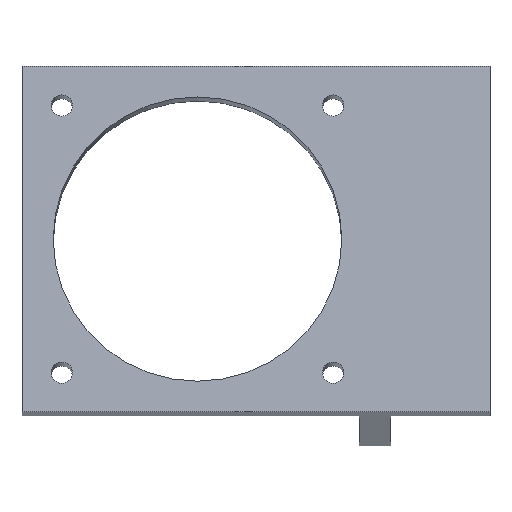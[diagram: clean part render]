
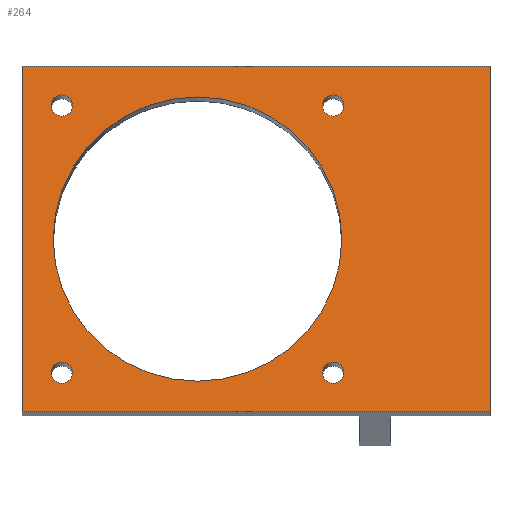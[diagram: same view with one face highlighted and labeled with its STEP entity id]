
A CAD part, front view. The second image highlights one B-rep face of the part: STEP entity #264.
In plain terms, the highlighted planar face has unit normal (0, -0.985, 0.174).
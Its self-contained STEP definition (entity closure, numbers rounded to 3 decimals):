
#37=CARTESIAN_POINT('',(-173.5,-846.999,521.293));
#38=VERTEX_POINT('',#37);
#45=CARTESIAN_POINT('',(-173.5,-862.627,432.66));
#46=VERTEX_POINT('',#45);
#47=CARTESIAN_POINT('',(-173.5,-862.627,432.66));
#48=DIRECTION('',(0.,0.174,0.985));
#49=VECTOR('',#48,1.);
#50=LINE('',#47,#49);
#51=EDGE_CURVE('',#46,#38,#50,.T.);
#77=CARTESIAN_POINT('',(-293.5,-862.627,432.66));
#78=VERTEX_POINT('',#77);
#85=CARTESIAN_POINT('',(-293.5,-846.999,521.293));
#86=VERTEX_POINT('',#85);
#87=CARTESIAN_POINT('',(-293.5,-846.999,521.293));
#88=DIRECTION('',(0.,-0.174,-0.985));
#89=VECTOR('',#88,1.);
#90=LINE('',#87,#89);
#91=EDGE_CURVE('',#86,#78,#90,.T.);
#188=CARTESIAN_POINT('',(-293.5,-862.627,432.66));
#189=DIRECTION('',(0.0,-0.985,0.174));
#190=DIRECTION('',(1.0,0.0,0.0));
#191=AXIS2_PLACEMENT_3D('',#188,#189,#190);
#192=PLANE('',#191);
#193=CARTESIAN_POINT('',(-293.5,-862.627,432.66));
#194=DIRECTION('',(1.0,0.0,0.0));
#195=VECTOR('',#194,1.);
#196=LINE('',#193,#195);
#197=EDGE_CURVE('',#78,#46,#196,.T.);
#198=ORIENTED_EDGE('',*,*,#197,.T.);
#199=ORIENTED_EDGE('',*,*,#51,.T.);
#200=CARTESIAN_POINT('',(-173.5,-846.999,521.293));
#201=DIRECTION('',(-1.0,0.,0.));
#202=VECTOR('',#201,1.);
#203=LINE('',#200,#202);
#204=EDGE_CURVE('',#38,#86,#203,.T.);
#205=ORIENTED_EDGE('',*,*,#204,.T.);
#206=ORIENTED_EDGE('',*,*,#91,.T.);
#207=EDGE_LOOP('',(#198,#199,#205,#206));
#208=FACE_OUTER_BOUND('',#207,.T.);
#209=CARTESIAN_POINT('',(-211.5,-854.813,476.977));
#210=VERTEX_POINT('',#209);
#211=CARTESIAN_POINT('',(-248.5,-854.813,476.977));
#212=DIRECTION('',(0.0,-0.985,0.174));
#213=DIRECTION('',(1.0,0.0,0.0));
#214=AXIS2_PLACEMENT_3D('',#211,#212,#213);
#215=CIRCLE('',#214,37.0);
#216=EDGE_CURVE('',#210,#210,#215,.T.);
#217=ORIENTED_EDGE('',*,*,#216,.F.);
#218=EDGE_LOOP('',(#217));
#219=FACE_BOUND('',#218,.T.);
#220=CARTESIAN_POINT('',(-280.54,-860.854,442.715));
#221=VERTEX_POINT('',#220);
#222=CARTESIAN_POINT('',(-283.29,-860.854,442.715));
#223=DIRECTION('',(0.0,-0.985,0.174));
#224=DIRECTION('',(1.0,0.0,0.0));
#225=AXIS2_PLACEMENT_3D('',#222,#223,#224);
#226=CIRCLE('',#225,2.75);
#227=EDGE_CURVE('',#221,#221,#226,.T.);
#228=ORIENTED_EDGE('',*,*,#227,.F.);
#229=EDGE_LOOP('',(#228));
#230=FACE_BOUND('',#229,.T.);
#231=CARTESIAN_POINT('',(-280.54,-848.772,511.238));
#232=VERTEX_POINT('',#231);
#233=CARTESIAN_POINT('',(-283.29,-848.772,511.238));
#234=DIRECTION('',(0.0,-0.985,0.174));
#235=DIRECTION('',(1.0,0.0,0.0));
#236=AXIS2_PLACEMENT_3D('',#233,#234,#235);
#237=CIRCLE('',#236,2.75);
#238=EDGE_CURVE('',#232,#232,#237,.T.);
#239=ORIENTED_EDGE('',*,*,#238,.F.);
#240=EDGE_LOOP('',(#239));
#241=FACE_BOUND('',#240,.T.);
#242=CARTESIAN_POINT('',(-210.96,-860.854,442.715));
#243=VERTEX_POINT('',#242);
#244=CARTESIAN_POINT('',(-213.71,-860.854,442.715));
#245=DIRECTION('',(0.0,-0.985,0.174));
#246=DIRECTION('',(1.0,0.0,0.0));
#247=AXIS2_PLACEMENT_3D('',#244,#245,#246);
#248=CIRCLE('',#247,2.75);
#249=EDGE_CURVE('',#243,#243,#248,.T.);
#250=ORIENTED_EDGE('',*,*,#249,.F.);
#251=EDGE_LOOP('',(#250));
#252=FACE_BOUND('',#251,.T.);
#253=CARTESIAN_POINT('',(-210.96,-848.772,511.238));
#254=VERTEX_POINT('',#253);
#255=CARTESIAN_POINT('',(-213.71,-848.772,511.238));
#256=DIRECTION('',(0.0,-0.985,0.174));
#257=DIRECTION('',(1.0,0.0,0.0));
#258=AXIS2_PLACEMENT_3D('',#255,#256,#257);
#259=CIRCLE('',#258,2.75);
#260=EDGE_CURVE('',#254,#254,#259,.T.);
#261=ORIENTED_EDGE('',*,*,#260,.F.);
#262=EDGE_LOOP('',(#261));
#263=FACE_BOUND('',#262,.T.);
#264=ADVANCED_FACE('',(#208,#219,#230,#241,#252,#263),#192,.T.);
